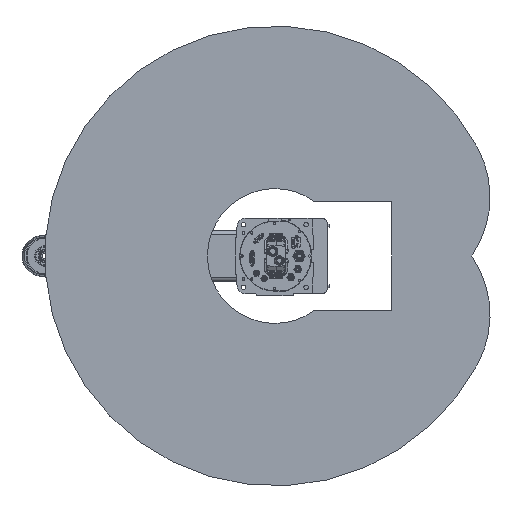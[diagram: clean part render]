
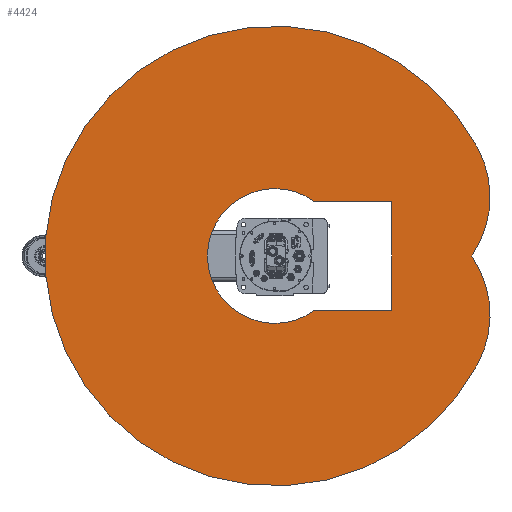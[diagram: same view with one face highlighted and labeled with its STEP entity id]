
A CAD part, front view. The second image highlights one B-rep face of the part: STEP entity #4424.
In plain terms, the highlighted planar face has unit normal (0, -1, 0).
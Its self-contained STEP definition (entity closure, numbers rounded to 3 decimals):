
#4424 = ADVANCED_FACE( '', ( #11792, #11793 ), #11794, .F. );
#11792 = FACE_OUTER_BOUND( '', #23303, .T. );
#11793 = FACE_BOUND( '', #23304, .T. );
#11794 = PLANE( '', #23305 );
#23303 = EDGE_LOOP( '', ( #37413, #37414, #37415 ) );
#23304 = EDGE_LOOP( '', ( #37416, #37417, #37418, #37419 ) );
#23305 = AXIS2_PLACEMENT_3D( '', #37420, #37421, #37422 );
#37413 = ORIENTED_EDGE( '', *, *, #63174, .F. );
#37414 = ORIENTED_EDGE( '', *, *, #63175, .F. );
#37415 = ORIENTED_EDGE( '', *, *, #63176, .F. );
#37416 = ORIENTED_EDGE( '', *, *, #63177, .T. );
#37417 = ORIENTED_EDGE( '', *, *, #63178, .T. );
#37418 = ORIENTED_EDGE( '', *, *, #61269, .T. );
#37419 = ORIENTED_EDGE( '', *, *, #63179, .T. );
#37420 = CARTESIAN_POINT( '', ( 70.421, 0., 132.442 ) );
#37421 = DIRECTION( '', ( 0., 1., 0. ) );
#37422 = DIRECTION( '', ( 0., 0., 1. ) );
#61269 = EDGE_CURVE( '', #71650, #71651, #71652, .T. );
#63174 = EDGE_CURVE( '', #74970, #74971, #74972, .T. );
#63175 = EDGE_CURVE( '', #74973, #74970, #74974, .T. );
#63176 = EDGE_CURVE( '', #74971, #74973, #74975, .T. );
#63177 = EDGE_CURVE( '', #74976, #74977, #74978, .T. );
#63178 = EDGE_CURVE( '', #74977, #71650, #74979, .T. );
#63179 = EDGE_CURVE( '', #71651, #74976, #74980, .T. );
#71650 = VERTEX_POINT( '', #87004 );
#71651 = VERTEX_POINT( '', #87005 );
#71652 = LINE( '', #87006, #87007 );
#74970 = VERTEX_POINT( '', #92846 );
#74971 = VERTEX_POINT( '', #92847 );
#74972 = CIRCLE( '', #92848, 250. );
#74973 = VERTEX_POINT( '', #92849 );
#74974 = CIRCLE( '', #92850, 250. );
#74975 = CIRCLE( '', #92851, 550. );
#74976 = VERTEX_POINT( '', #92852 );
#74977 = VERTEX_POINT( '', #92853 );
#74978 = LINE( '', #92854, #92855 );
#74979 = LINE( '', #92856, #92857 );
#74980 = CIRCLE( '', #92858, 161.22 );
#87004 = CARTESIAN_POINT( '', ( 130., 0., 280. ) );
#87005 = CARTESIAN_POINT( '', ( 130., 0., 95.351 ) );
#87006 = CARTESIAN_POINT( '', ( 130., 0., 280. ) );
#87007 = VECTOR( '', #112970, 1000. );
#92846 = CARTESIAN_POINT( '', ( 0., 0., 471.436 ) );
#92847 = CARTESIAN_POINT( '', ( 258.209, 0., 485.621 ) );
#92848 = AXIS2_PLACEMENT_3D( '', #115512, #115513, #115514 );
#92849 = CARTESIAN_POINT( '', ( -258.209, 0., 485.621 ) );
#92850 = AXIS2_PLACEMENT_3D( '', #115515, #115516, #115517 );
#92851 = AXIS2_PLACEMENT_3D( '', #115518, #115519, #115520 );
#92852 = CARTESIAN_POINT( '', ( -130., 0., 95.351 ) );
#92853 = CARTESIAN_POINT( '', ( -130., 0., 280. ) );
#92854 = CARTESIAN_POINT( '', ( -130., 0., 0. ) );
#92855 = VECTOR( '', #115521, 1000. );
#92856 = CARTESIAN_POINT( '', ( -130., 0., 280. ) );
#92857 = VECTOR( '', #115522, 1000. );
#92858 = AXIS2_PLACEMENT_3D( '', #115523, #115524, #115525 );
#112970 = DIRECTION( '', ( 0., 0., -1. ) );
#115512 = CARTESIAN_POINT( '', ( 140.841, 0., 264.884 ) );
#115513 = DIRECTION( '', ( 0., 1., 0. ) );
#115514 = DIRECTION( '', ( 1., 0., 0. ) );
#115515 = CARTESIAN_POINT( '', ( -140.841, 0., 264.884 ) );
#115516 = DIRECTION( '', ( 0., 1., 0. ) );
#115517 = DIRECTION( '', ( 1., 0., 0. ) );
#115518 = CARTESIAN_POINT( '', ( 0., 0., 0. ) );
#115519 = DIRECTION( '', ( 0., 1., 0. ) );
#115520 = DIRECTION( '', ( 1., 0., 0. ) );
#115521 = DIRECTION( '', ( 0., 0., 1. ) );
#115522 = DIRECTION( '', ( 1., 0., 0. ) );
#115523 = CARTESIAN_POINT( '', ( 0., 0., 0. ) );
#115524 = DIRECTION( '', ( 0., 1., 0. ) );
#115525 = DIRECTION( '', ( 1., 0., 0. ) );
